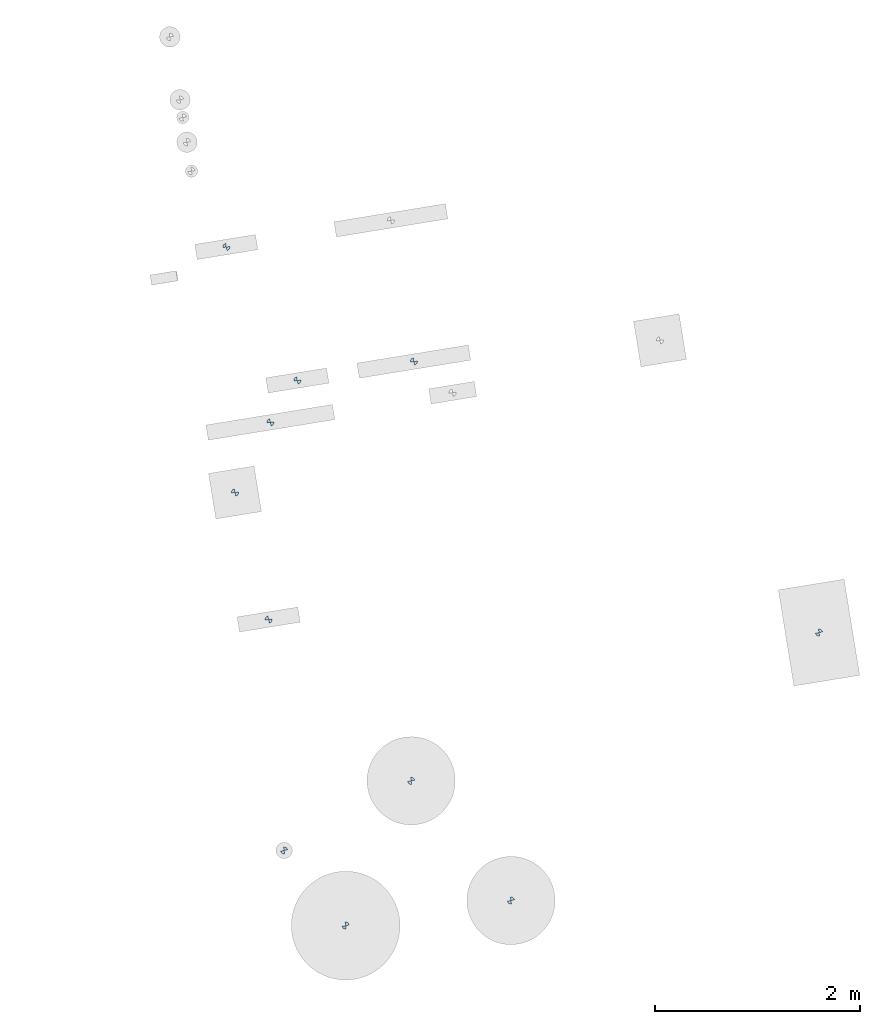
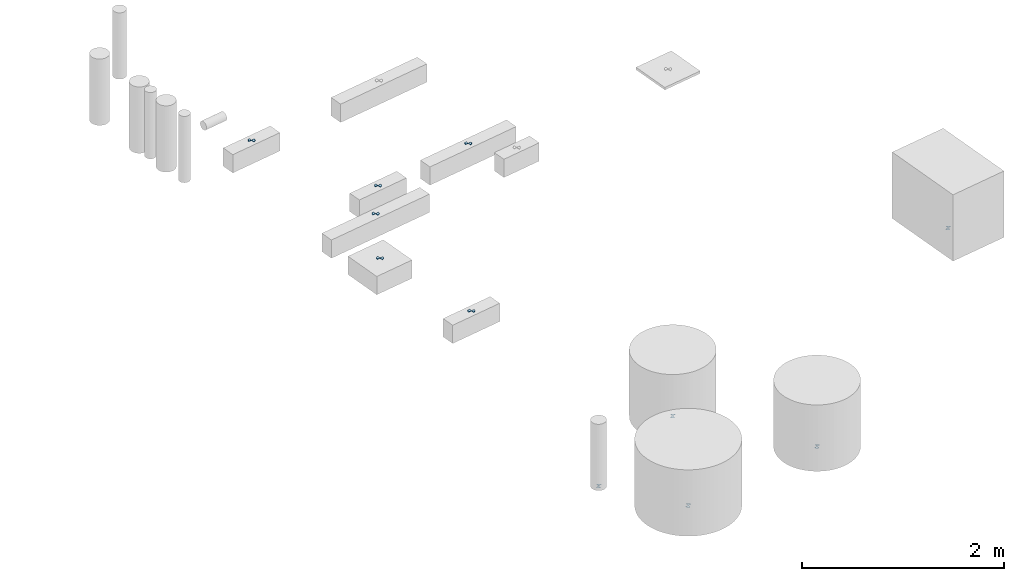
# One storey, part 1 of 4: 11 slabs.
"""IFC2X3 building model written with IfcOpenShell, lengths in millimetres."""

from ifc_helpers import new_model, entity, si_unit, converted_unit, derived_unit, direction, frame, frame_2d, origin, origin_with_axes, place, context, subcontext, project, spatial, polyline, circle_curve, parameter, trimmed, segment, composite_curve, outline, extrude, material, type_object, element, save


model = new_model("IFC2X3")

# Units and contexts
plan_context = context("Plan", 3, precision=1e-05, world=origin_with_axes())
model_context = context("Model", 3, precision=0.01, world=origin(), true_north=direction((6.12323399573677e-17, 1.0)))
body_context = subcontext(model_context, "Body", "Model", "MODEL_VIEW")
ifc_project = project(units=[converted_unit("PLANEANGLEUNIT", "DEGREE", entity("IfcPositiveLengthMeasure", 0.0174532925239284), si_unit("PLANEANGLEUNIT", "RADIAN"), dimensions=[0, 0, 0, 0, 0, 0, 0]), si_unit("AREAUNIT", "SQUARE_METRE"), si_unit("LENGTHUNIT", "METRE", prefix="MILLI"), si_unit("MASSUNIT", "GRAM", prefix="KILO"), si_unit("POWERUNIT", "WATT"), si_unit("PRESSUREUNIT", "PASCAL", prefix="KILO"), si_unit("FORCEUNIT", "NEWTON", prefix="KILO"), si_unit("ELECTRICVOLTAGEUNIT", "VOLT"), si_unit("ELECTRICCURRENTUNIT", "AMPERE"), si_unit("THERMODYNAMICTEMPERATUREUNIT", "DEGREE_CELSIUS"), si_unit("TIMEUNIT", "SECOND"), si_unit("VOLUMEUNIT", "CUBIC_METRE"), derived_unit("LINEARVELOCITYUNIT", [(si_unit("LENGTHUNIT", "METRE"), 1), (si_unit("TIMEUNIT", "SECOND"), -1)]), derived_unit("VOLUMETRICFLOWRATEUNIT", [(si_unit("VOLUMEUNIT", "CUBIC_METRE"), 1), (si_unit("TIMEUNIT", "SECOND"), -1)]), derived_unit("THERMALTRANSMITTANCEUNIT", [(si_unit("POWERUNIT", "WATT"), 1), (si_unit("THERMODYNAMICTEMPERATUREUNIT", "KELVIN"), -1), (si_unit("AREAUNIT", "SQUARE_METRE"), -1)]), derived_unit("SOUNDPRESSUREUNIT", [(si_unit("PRESSUREUNIT", "PASCAL"), 1)])], contexts=[model_context, plan_context])

# Site, building, storey
site_placement = place(None, frame((-0.00071070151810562, 0.00438415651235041, 0.0), z_axis=(0.0, 0.0, 1.0), x_axis=(-0.160236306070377, 0.987078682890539, 0.0)))
site = spatial("IfcSite", under=ifc_project, at=site_placement, Name="Default", CompositionType="ELEMENT")
building_placement = place(site_placement, origin_with_axes())
building = spatial("IfcBuilding", under=site, at=building_placement, CompositionType="ELEMENT")
storey_placement = place(building_placement, frame((0.0, 0.0, 58999.9999999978), z_axis=(0.0, 0.0, 1.0), x_axis=(1.0, 0.0, 0.0)))
storey = spatial("IfcBuildingStorey", under=building, at=storey_placement, Name="Nivå F", CompositionType="ELEMENT", Elevation=58999.9999999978)

# Slabs
ifc_material = material(Name="Black")
slab_type_1 = type_object("IfcSlabType", Name="SurveyMarker:Custom", PredefinedType="BASESLAB", material=ifc_material)
slab_1_placement = place(storey_placement, origin_with_axes())
element("IfcSlab", 1, at=slab_1_placement, inside=storey, type_object=slab_type_1, Name="SurveyMarker:Custom", ObjectType="SurveyMarker:Custom", PredefinedType="BASESLAB", context=body_context, shape_type="SweptSolid", body=[
    extrude(outline(composite_curve([segment(polyline([(-11.6666666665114, -11.6666666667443), (23.3333333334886, -11.6666666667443)]), True, "CONTINUOUS"), segment(trimmed(circle_curve(frame_2d((-11.6666666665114, -11.6666666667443), x_axis=(0.0, 1.0)), 35.0), [parameter(269.999999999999)], [parameter(359.999999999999)], True, "PARAMETER"), True, "CONTINUOUS"), segment(polyline([(-11.6666666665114, 23.3333333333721), (-11.6666666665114, -11.6666666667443)]), True, "CONTINUOUS")], self_intersect=False)), frame((765190.257089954, -502508.501371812, -800.0), z_axis=(0.0, 0.0, 1.0), x_axis=(0.0, -1.0, 0.0)), (0.0, 0.0, 1.0), 0.799999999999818),
    extrude(outline(composite_curve([segment(polyline([(-11.6666666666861, -11.6666666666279), (23.3333333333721, -11.6666666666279)]), True, "CONTINUOUS"), segment(trimmed(circle_curve(frame_2d((-11.6666666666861, -11.6666666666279), x_axis=(0.0, 1.0)), 35.0), [parameter(269.999999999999)], [parameter(359.999999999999)], True, "PARAMETER"), True, "CONTINUOUS"), segment(polyline([(-11.6666666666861, 23.3333333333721), (-11.6666666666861, -11.6666666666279)]), True, "CONTINUOUS")], self_intersect=False)), frame((765166.92375662, -502485.168038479, -800.0), z_axis=(0.0, 0.0, 1.0), x_axis=(0.0, 1.0, 0.0)), (0.0, 0.0, 1.0), 0.799999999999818),
])
slab_2_placement = place(storey_placement, origin_with_axes())
element("IfcSlab", 2, at=slab_2_placement, inside=storey, type_object=slab_type_1, Name="SurveyMarker:Custom", ObjectType="SurveyMarker:Custom", PredefinedType="BASESLAB", context=body_context, shape_type="SweptSolid", body=[
    extrude(outline(composite_curve([segment(polyline([(-11.6666666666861, -11.6666666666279), (23.3333333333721, -11.6666666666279)]), True, "CONTINUOUS"), segment(trimmed(circle_curve(frame_2d((-11.6666666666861, -11.6666666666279), x_axis=(0.0, 1.0)), 35.0), [parameter(269.999999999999)], [parameter(359.999999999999)], True, "PARAMETER"), True, "CONTINUOUS"), segment(polyline([(-11.6666666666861, 23.3333333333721), (-11.6666666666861, -11.6666666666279)]), True, "CONTINUOUS")], self_intersect=False)), frame((764718.678272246, -501177.585466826, -800.0), z_axis=(0.0, 0.0, 1.0), x_axis=(0.0, -1.0, 0.0)), (0.0, 0.0, 1.0), 0.799999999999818),
    extrude(outline(composite_curve([segment(polyline([(-11.6666666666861, -11.6666666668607), (23.3333333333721, -11.6666666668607)]), True, "CONTINUOUS"), segment(trimmed(circle_curve(frame_2d((-11.6666666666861, -11.6666666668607), x_axis=(0.0, 1.0)), 35.0), [parameter(269.999999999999)], [parameter(359.999999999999)], True, "PARAMETER"), True, "CONTINUOUS"), segment(polyline([(-11.6666666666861, 23.3333333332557), (-11.6666666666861, -11.6666666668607)]), True, "CONTINUOUS")], self_intersect=False)), frame((764695.344938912, -501154.252133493, -800.0), z_axis=(0.0, 0.0, 1.0), x_axis=(0.0, 1.0, 0.0)), (0.0, 0.0, 1.0), 0.799999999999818),
])
slab_3_placement = place(storey_placement, origin_with_axes())
element("IfcSlab", 3, at=slab_3_placement, inside=storey, type_object=slab_type_1, Name="SurveyMarker:Custom", ObjectType="SurveyMarker:Custom", PredefinedType="BASESLAB", context=body_context, shape_type="SweptSolid", body=[
    extrude(outline(composite_curve([segment(polyline([(-11.6666666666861, -11.6666666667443), (23.3333333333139, -11.6666666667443)]), True, "CONTINUOUS"), segment(trimmed(circle_curve(frame_2d((-11.6666666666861, -11.6666666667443), x_axis=(0.0, 1.0)), 35.0), [parameter(269.999999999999)], [parameter(359.999999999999)], True, "PARAMETER"), True, "CONTINUOUS"), segment(polyline([(-11.6666666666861, 23.3333333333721), (-11.6666666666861, -11.6666666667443)]), True, "CONTINUOUS")], self_intersect=False)), frame((763899.256270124, -501652.389577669, -800.0), z_axis=(0.0, 0.0, 1.0), x_axis=(0.0, -1.0, 0.0)), (0.0, 0.0, 1.0), 0.799999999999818),
    extrude(outline(composite_curve([segment(polyline([(-11.6666666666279, -11.6666666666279), (23.3333333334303, -11.6666666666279)]), True, "CONTINUOUS"), segment(trimmed(circle_curve(frame_2d((-11.6666666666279, -11.6666666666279), x_axis=(0.0, 1.0)), 35.0), [parameter(269.999999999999)], [parameter(359.999999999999)], True, "PARAMETER"), True, "CONTINUOUS"), segment(polyline([(-11.6666666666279, 23.3333333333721), (-11.6666666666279, -11.6666666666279)]), True, "CONTINUOUS")], self_intersect=False)), frame((763875.922936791, -501629.056244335, -800.0), z_axis=(0.0, 0.0, 1.0), x_axis=(0.0, 1.0, 0.0)), (0.0, 0.0, 1.0), 0.799999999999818),
])
slab_4_placement = place(storey_placement, origin_with_axes())
element("IfcSlab", 4, at=slab_4_placement, inside=storey, type_object=slab_type_1, Name="SurveyMarker:Custom", ObjectType="SurveyMarker:Custom", PredefinedType="BASESLAB", context=body_context, shape_type="SweptSolid", body=[
    extrude(outline(composite_curve([segment(polyline([(-11.6666666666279, -11.6666666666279), (23.3333333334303, -11.6666666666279)]), True, "CONTINUOUS"), segment(trimmed(circle_curve(frame_2d((-11.6666666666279, -11.6666666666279), x_axis=(0.0, 1.0)), 35.0), [parameter(269.999999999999)], [parameter(359.999999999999)], True, "PARAMETER"), True, "CONTINUOUS"), segment(polyline([(-11.6666666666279, 23.3333333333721), (-11.6666666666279, -11.6666666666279)]), True, "CONTINUOUS")], self_intersect=False)), frame((763882.527542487, -503281.675281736, -800.0), z_axis=(0.0, 0.0, 1.0), x_axis=(0.0, -1.0, 0.0)), (0.0, 0.0, 1.0), 0.799999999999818),
    extrude(outline(composite_curve([segment(polyline([(-11.6666666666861, -11.6666666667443), (23.3333333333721, -11.6666666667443)]), True, "CONTINUOUS"), segment(trimmed(circle_curve(frame_2d((-11.6666666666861, -11.6666666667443), x_axis=(0.0, 1.0)), 35.0), [parameter(269.999999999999)], [parameter(359.999999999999)], True, "PARAMETER"), True, "CONTINUOUS"), segment(polyline([(-11.6666666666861, 23.3333333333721), (-11.6666666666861, -11.6666666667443)]), True, "CONTINUOUS")], self_intersect=False)), frame((763859.194209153, -503258.341948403, -800.0), z_axis=(0.0, 0.0, 1.0), x_axis=(0.0, 1.0, 0.0)), (0.0, 0.0, 1.0), 0.799999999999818),
])
slab_type_2 = type_object("IfcSlabType", Name="SurveyMarker rektangulær:Custom", PredefinedType="BASESLAB", material=ifc_material)
slab_5_placement = place(storey_placement, origin_with_axes())
element("IfcSlab", 5, at=slab_5_placement, inside=storey, type_object=slab_type_2, Name="SurveyMarker rektangulær:Custom", ObjectType="SurveyMarker rektangulær:Custom", PredefinedType="BASESLAB", context=body_context, shape_type="SweptSolid", body=[
    extrude(outline(composite_curve([segment(polyline([(-11.6666666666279, -11.6666666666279), (23.3333333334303, -11.6666666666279)]), True, "CONTINUOUS"), segment(trimmed(circle_curve(frame_2d((-11.6666666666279, -11.6666666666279), x_axis=(0.0, 1.0)), 35.0), [parameter(269.999999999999)], [parameter(359.999999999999)], True, "PARAMETER"), True, "CONTINUOUS"), segment(polyline([(-11.6666666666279, 23.3333333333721), (-11.6666666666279, -11.6666666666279)]), True, "CONTINUOUS")], self_intersect=False)), frame((765979.286310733, -506664.147165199, -800.0), z_axis=(0.0, 0.0, 1.0), x_axis=(0.0, -1.0, 0.0)), (0.0, 0.0, 1.0), 0.799999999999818),
    extrude(outline(composite_curve([segment(polyline([(-11.6666666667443, -11.6666666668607), (23.3333333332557, -11.6666666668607)]), True, "CONTINUOUS"), segment(trimmed(circle_curve(frame_2d((-11.6666666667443, -11.6666666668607), x_axis=(0.0, 1.0)), 35.0), [parameter(269.999999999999)], [parameter(359.999999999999)], True, "PARAMETER"), True, "CONTINUOUS"), segment(polyline([(-11.6666666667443, 23.3333333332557), (-11.6666666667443, -11.6666666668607)]), True, "CONTINUOUS")], self_intersect=False)), frame((765955.9529774, -506640.813831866, -800.0), z_axis=(0.0, 0.0, 1.0), x_axis=(0.0, 1.0, 0.0)), (0.0, 0.0, 1.0), 0.799999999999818),
])
slab_6_placement = place(storey_placement, origin_with_axes())
element("IfcSlab", 6, at=slab_6_placement, inside=storey, type_object=slab_type_2, Name="SurveyMarker rektangulær:Custom", ObjectType="SurveyMarker rektangulær:Custom", PredefinedType="BASESLAB", context=body_context, shape_type="SweptSolid", body=[
    extrude(outline(composite_curve([segment(polyline([(-11.6666666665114, -11.6666666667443), (23.333333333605, -11.6666666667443)]), True, "CONTINUOUS"), segment(trimmed(circle_curve(frame_2d((-11.6666666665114, -11.6666666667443), x_axis=(1.0, 0.0)), 35.0), [parameter(5.08888749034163e-13)], [parameter(90.0000000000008)], True, "PARAMETER"), True, "CONTINUOUS"), segment(polyline([(-11.6666666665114, 23.3333333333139), (-11.6666666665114, -11.6666666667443)]), True, "CONTINUOUS")], self_intersect=False)), frame((768239.286310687, -501240.813831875, -0.799999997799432)), (0.0, 0.0, 1.0), 0.799999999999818),
    extrude(outline(composite_curve([segment(polyline([(-11.6666666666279, -11.6666666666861), (23.3333333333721, -11.6666666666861)]), True, "CONTINUOUS"), segment(trimmed(circle_curve(frame_2d((-11.6666666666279, -11.6666666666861), x_axis=(1.0, 0.0)), 35.0), [parameter(5.08888749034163e-13)], [parameter(90.0000000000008)], True, "PARAMETER"), True, "CONTINUOUS"), segment(polyline([(-11.6666666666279, 23.3333333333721), (-11.6666666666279, -11.6666666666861)]), True, "CONTINUOUS")], self_intersect=False)), frame((768215.952977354, -501264.147165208, -0.799999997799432), z_axis=(0.0, 0.0, 1.0), x_axis=(-1.0, 0.0, 0.0)), (0.0, 0.0, 1.0), 0.799999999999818),
])
slab_7_placement = place(storey_placement, origin_with_axes())
element("IfcSlab", 7, at=slab_7_placement, inside=storey, type_object=slab_type_2, Name="SurveyMarker rektangulær:Custom", ObjectType="SurveyMarker rektangulær:Custom", PredefinedType="BASESLAB", context=body_context, shape_type="SweptSolid", body=[
    extrude(outline(composite_curve([segment(polyline([(-11.6666666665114, -11.6666666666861), (23.3333333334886, -11.6666666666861)]), True, "CONTINUOUS"), segment(trimmed(circle_curve(frame_2d((-11.6666666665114, -11.6666666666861), x_axis=(1.0, 0.0)), 35.0), [parameter(5.08888749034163e-13)], [parameter(90.0000000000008)], True, "PARAMETER"), True, "CONTINUOUS"), segment(polyline([(-11.6666666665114, 23.3333333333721), (-11.6666666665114, -11.6666666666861)]), True, "CONTINUOUS")], self_intersect=False)), frame((766964.286310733, -501365.803938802, -0.799999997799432)), (0.0, 0.0, 1.0), 0.799999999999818),
    extrude(outline(composite_curve([segment(polyline([(-11.6666666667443, -11.6666666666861), (23.3333333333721, -11.6666666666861)]), True, "CONTINUOUS"), segment(trimmed(circle_curve(frame_2d((-11.6666666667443, -11.6666666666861), x_axis=(1.0, 0.0)), 35.0), [parameter(5.08888749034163e-13)], [parameter(90.0000000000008)], True, "PARAMETER"), True, "CONTINUOUS"), segment(polyline([(-11.6666666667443, 23.3333333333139), (-11.6666666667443, -11.6666666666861)]), True, "CONTINUOUS")], self_intersect=False)), frame((766940.9529774, -501389.137272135, -0.799999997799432), z_axis=(0.0, 0.0, 1.0), x_axis=(-1.0, 0.0, 0.0)), (0.0, 0.0, 1.0), 0.799999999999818),
])
slab_8_placement = place(storey_placement, origin_with_axes())
element("IfcSlab", 8, at=slab_8_placement, inside=storey, type_object=slab_type_2, Name="SurveyMarker rektangulær:Custom", ObjectType="SurveyMarker rektangulær:Custom", PredefinedType="BASESLAB", context=body_context, shape_type="SweptSolid", body=[
    extrude(outline(composite_curve([segment(polyline([(-11.6666666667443, -11.6666666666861), (23.3333333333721, -11.6666666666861)]), True, "CONTINUOUS"), segment(trimmed(circle_curve(frame_2d((-11.6666666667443, -11.6666666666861), x_axis=(1.0, 0.0)), 35.0), [parameter(5.08888749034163e-13)], [parameter(90.0000000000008)], True, "PARAMETER"), True, "CONTINUOUS"), segment(polyline([(-11.6666666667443, 23.3333333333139), (-11.6666666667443, -11.6666666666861)]), True, "CONTINUOUS")], self_intersect=False)), frame((768859.286310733, -501690.803938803, -0.799999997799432)), (0.0, 0.0, 1.0), 0.799999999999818),
    extrude(outline(composite_curve([segment(polyline([(-11.6666666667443, -11.6666666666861), (23.3333333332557, -11.6666666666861)]), True, "CONTINUOUS"), segment(trimmed(circle_curve(frame_2d((-11.6666666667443, -11.6666666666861), x_axis=(1.0, 0.0)), 35.0), [parameter(5.08888749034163e-13)], [parameter(90.0000000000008)], True, "PARAMETER"), True, "CONTINUOUS"), segment(polyline([(-11.6666666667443, 23.3333333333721), (-11.6666666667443, -11.6666666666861)]), True, "CONTINUOUS")], self_intersect=False)), frame((768835.952977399, -501714.137272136, -0.799999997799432), z_axis=(0.0, 0.0, 1.0), x_axis=(-1.0, 0.0, 0.0)), (0.0, 0.0, 1.0), 0.799999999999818),
])
slab_9_placement = place(storey_placement, origin_with_axes())
element("IfcSlab", 9, at=slab_9_placement, inside=storey, type_object=slab_type_2, Name="SurveyMarker rektangulær:Custom", ObjectType="SurveyMarker rektangulær:Custom", PredefinedType="BASESLAB", context=body_context, shape_type="SweptSolid", body=[
    extrude(outline(composite_curve([segment(polyline([(-11.6666666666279, -11.6666666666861), (23.3333333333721, -11.6666666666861)]), True, "CONTINUOUS"), segment(trimmed(circle_curve(frame_2d((-11.6666666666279, -11.6666666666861), x_axis=(1.0, 0.0)), 35.0), [parameter(5.08888749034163e-13)], [parameter(90.0000000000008)], True, "PARAMETER"), True, "CONTINUOUS"), segment(polyline([(-11.6666666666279, 23.3333333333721), (-11.6666666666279, -11.6666666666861)]), True, "CONTINUOUS")], self_intersect=False)), frame((769219.286310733, -503165.803938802, -0.799999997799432)), (0.0, 0.0, 1.0), 0.799999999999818),
    extrude(outline(composite_curve([segment(polyline([(-11.6666666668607, -11.6666666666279), (23.3333333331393, -11.6666666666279)]), True, "CONTINUOUS"), segment(trimmed(circle_curve(frame_2d((-11.6666666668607, -11.6666666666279), x_axis=(1.0, 0.0)), 35.0), [parameter(5.08888749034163e-13)], [parameter(90.0000000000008)], True, "PARAMETER"), True, "CONTINUOUS"), segment(polyline([(-11.6666666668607, 23.3333333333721), (-11.6666666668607, -11.6666666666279)]), True, "CONTINUOUS")], self_intersect=False)), frame((769195.952977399, -503189.137272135, -0.799999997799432), z_axis=(0.0, 0.0, 1.0), x_axis=(-1.0, 0.0, 0.0)), (0.0, 0.0, 1.0), 0.799999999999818),
])
slab_10_placement = place(storey_placement, origin_with_axes())
element("IfcSlab", 10, at=slab_10_placement, inside=storey, type_object=slab_type_2, Name="SurveyMarker rektangulær:Custom", ObjectType="SurveyMarker rektangulær:Custom", PredefinedType="BASESLAB", context=body_context, shape_type="SweptSolid", body=[
    extrude(outline(composite_curve([segment(polyline([(-11.6666666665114, -11.6666666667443), (23.3333333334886, -11.6666666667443)]), True, "CONTINUOUS"), segment(trimmed(circle_curve(frame_2d((-11.6666666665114, -11.6666666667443), x_axis=(1.0, 0.0)), 35.0), [parameter(5.08888749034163e-13)], [parameter(90.0000000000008)], True, "PARAMETER"), True, "CONTINUOUS"), segment(polyline([(-11.6666666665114, 23.3333333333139), (-11.6666666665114, -11.6666666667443)]), True, "CONTINUOUS")], self_intersect=False)), frame((770614.286310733, -501540.803938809, -0.799999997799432)), (0.0, 0.0, 1.0), 0.799999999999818),
    extrude(outline(composite_curve([segment(polyline([(-11.6666666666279, -11.6666666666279), (23.3333333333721, -11.6666666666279)]), True, "CONTINUOUS"), segment(trimmed(circle_curve(frame_2d((-11.6666666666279, -11.6666666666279), x_axis=(1.0, 0.0)), 35.0), [parameter(5.08888749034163e-13)], [parameter(90.0000000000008)], True, "PARAMETER"), True, "CONTINUOUS"), segment(polyline([(-11.6666666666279, 23.3333333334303), (-11.6666666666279, -11.6666666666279)]), True, "CONTINUOUS")], self_intersect=False)), frame((770590.9529774, -501564.137272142, -0.799999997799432), z_axis=(0.0, 0.0, 1.0), x_axis=(-1.0, 0.0, 0.0)), (0.0, 0.0, 1.0), 0.799999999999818),
])
slab_11_placement = place(storey_placement, origin_with_axes())
element("IfcSlab", 11, at=slab_11_placement, inside=storey, type_object=slab_type_2, Name="SurveyMarker rektangulær:Custom", ObjectType="SurveyMarker rektangulær:Custom", PredefinedType="BASESLAB", context=body_context, shape_type="SweptSolid", body=[
    extrude(outline(composite_curve([segment(polyline([(-11.6666666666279, -11.6666666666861), (23.3333333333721, -11.6666666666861)]), True, "CONTINUOUS"), segment(trimmed(circle_curve(frame_2d((-11.6666666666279, -11.6666666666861), x_axis=(1.0, 0.0)), 35.0), [parameter(5.08888749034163e-13)], [parameter(90.0000000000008)], True, "PARAMETER"), True, "CONTINUOUS"), segment(polyline([(-11.6666666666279, 23.3333333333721), (-11.6666666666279, -11.6666666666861)]), True, "CONTINUOUS")], self_intersect=False)), frame((769219.286310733, -502015.803938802, -0.799999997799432)), (0.0, 0.0, 1.0), 0.799999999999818),
    extrude(outline(composite_curve([segment(polyline([(-11.6666666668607, -11.6666666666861), (23.3333333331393, -11.6666666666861)]), True, "CONTINUOUS"), segment(trimmed(circle_curve(frame_2d((-11.6666666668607, -11.6666666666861), x_axis=(1.0, 0.0)), 35.0), [parameter(5.08888749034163e-13)], [parameter(90.0000000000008)], True, "PARAMETER"), True, "CONTINUOUS"), segment(polyline([(-11.6666666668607, 23.3333333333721), (-11.6666666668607, -11.6666666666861)]), True, "CONTINUOUS")], self_intersect=False)), frame((769195.952977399, -502039.137272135, -0.799999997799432), z_axis=(0.0, 0.0, 1.0), x_axis=(-1.0, 0.0, 0.0)), (0.0, 0.0, 1.0), 0.799999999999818),
])

save(model, "model.ifc")
